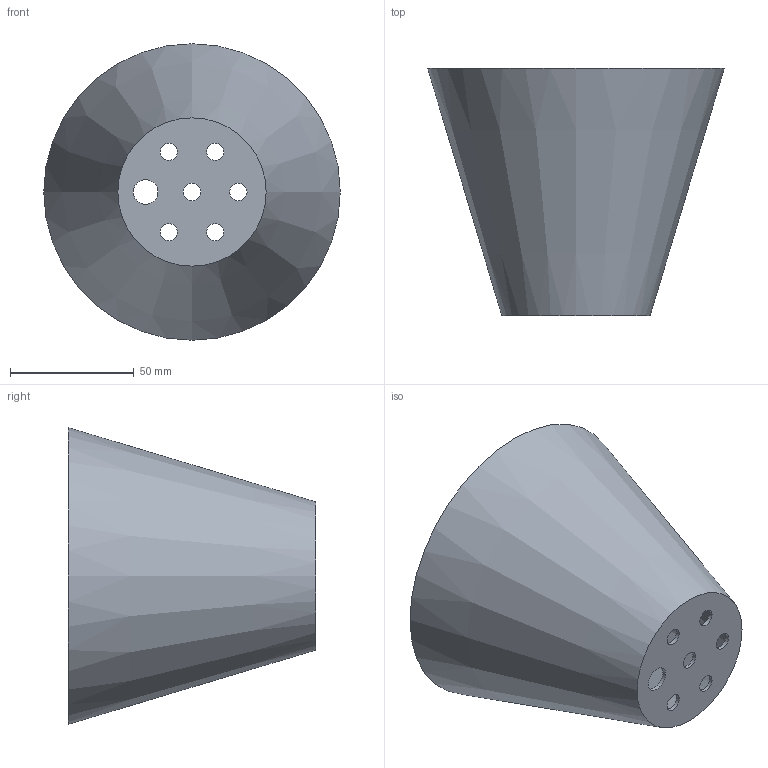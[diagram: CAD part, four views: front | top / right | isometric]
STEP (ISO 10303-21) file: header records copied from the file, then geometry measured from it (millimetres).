
FILE_DESCRIPTION(('STEP AP203'), '1');
FILE_NAME('up cup', '', ('UNSPECIFIED'), ('UNSPECIFIED'), 'ASCON STEP Converter 1.3', 'ASCON Math Kernel', '');
FILE_SCHEMA(('CONFIG_CONTROL_DESIGN'));
Length unit declared in the file: millimetre
Bounding box: 120 x 100 x 120 mm (x, y, z)
Volume: 45128.9 mm3; surface area: 63416.9 mm2
Topology: 1 solids, 1 shells, 12 faces, 27 edges, 18 vertices
Faces by surface type: cylinder 7, plane 3, cone 2
Full cylindrical faces by diameter (mm): 7 x6, 10 x1
Entity records: 472 total; most frequent: DIRECTION 62, CARTESIAN_POINT 49, EDGE_LOOP 36, ORIENTED_EDGE 36, AXIS2_PLACEMENT_3D 31, FACE_BOUND 18, FACE_OUTER_BOUND 18, EDGE_CURVE 18
